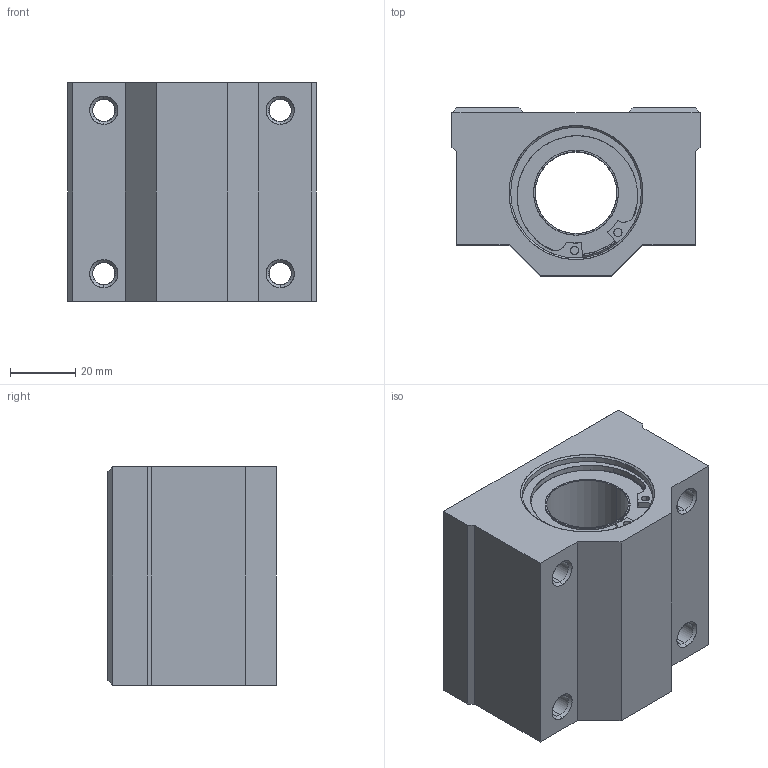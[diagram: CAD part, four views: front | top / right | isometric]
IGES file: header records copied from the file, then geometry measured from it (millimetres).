
Start section: SolidWorks IGES file using analytic representation for surfaces
Global section: file name: D:\SOLIDWORKS PROEKTI\freelance cnc cat\VTORA SERIJA\SC-UU\SC25UU.IGS; native system: SolidWorks 2016; preprocessor: SolidWorks 2016; author: User; date: 170805.192021; units: millimetre
Bounding box: 76 x 51.5 x 67 mm (x, y, z)
Surface area: 49188.9 mm2 (no closed solid volume)
Topology: 0 solids, 0 shells, 332 faces, 8809 edges, 10525 vertices
Faces by surface type: bspline 215, revolution 117
